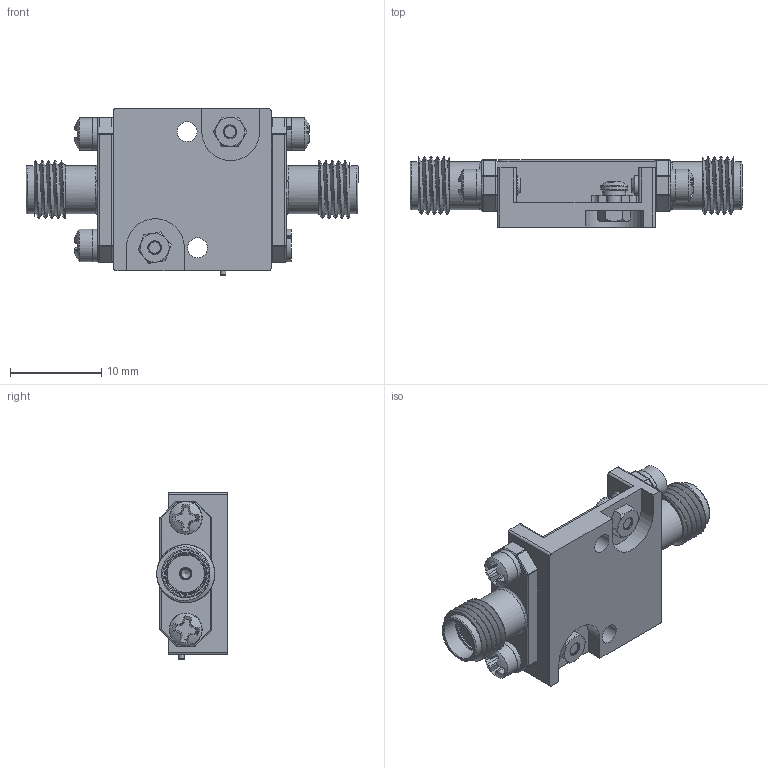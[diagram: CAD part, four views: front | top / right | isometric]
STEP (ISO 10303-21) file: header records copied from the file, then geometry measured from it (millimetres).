
FILE_DESCRIPTION (( 'STEP AP214' ), '1' );
FILE_NAME ('QSM-020-15-4-23-SFF_3D Model.STEP', '2026-05-21T19:28:08', ( '' ), ( '' ), 'SwSTEP 2.0', 'SolidWorks 2025', '' );
FILE_SCHEMA (( 'AUTOMOTIVE_DESIGN' ));
Length unit declared in the file: millimetre
Products named in the file (1): QSM-020-15-4-23-SFF_3D Model
Bounding box: 36.37 x 7.72 x 18.29 mm (x, y, z)
Volume: 1954.5 mm3; surface area: 3907.1 mm2
Topology: 25 solids, 25 shells, 761 faces, 2959 edges, 2376 vertices
Faces by surface type: plane 389, cylinder 204, torus 60, cone 59, sphere 41, bspline 8
Full cylindrical faces by diameter (mm): 0.305 x4, 0.508 x2, 0.635 x2, 0.762 x2, 0.889 x2, 1.016 x2, 1.18 x6, 1.27 x2, 1.295 x1, 1.524 x10, 1.6 x2, 1.676 x2, 1.778 x2, 1.93 x3, 1.981 x2, 2.007 x1, 2.184 x9, 2.489 x2, 2.515 x2, 2.591 x4, 2.896 x1, 2.946 x2, 3.302 x2, 3.556 x3, 4.191 x4, 4.597 x2, 5.283 x4
Entity records: 41196 total; most frequent: CARTESIAN_POINT 7686, ORIENTED_EDGE 5464, DIRECTION 4788, EDGE_CURVE 2732, VERTEX_POINT 2348, LINE 1916, VECTOR 1916, AXIS2_PLACEMENT_3D 1436
